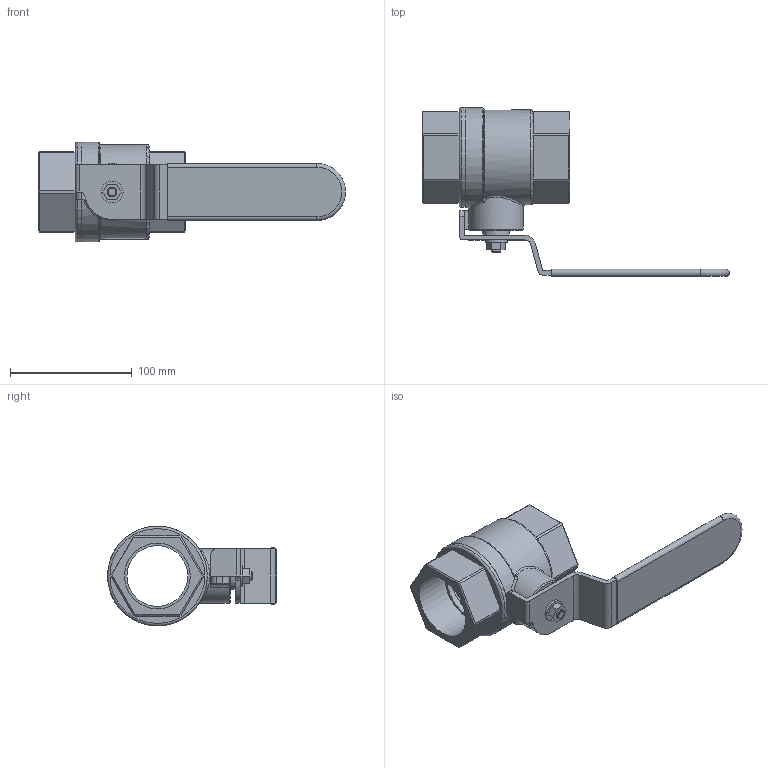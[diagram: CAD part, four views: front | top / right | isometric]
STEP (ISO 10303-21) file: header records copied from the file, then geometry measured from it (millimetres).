
FILE_DESCRIPTION( ( 'Unknown' ), '1' );
FILE_NAME( 'C:/Documents and Settings/Klaus/My Documents/Rootsi BPS 3D, Klaus/BPS 2410 ball valve, 2-pcs/STEP/BPS2410050 ball valve DN50.stp', 'Unknown', ( 'Unknown' ), ( 'Unknown' ), 'PSStep 10.1', 'Unknown', ' ' );
FILE_SCHEMA( ( 'AUTOMOTIVE_DESIGN { 1 0 10303 214 1 1 1 1 }' ) );
Length unit declared in the file: millimetre
Products named in the file (2): 1; 2
Bounding box: 252.5 x 139 x 82 mm (x, y, z)
Volume: 365291 mm3; surface area: 88833.2 mm2
Topology: 2 solids, 2 shells, 295 faces, 720 edges, 466 vertices
Faces by surface type: plane 206, extrusion 50, cylinder 24, bspline 8, torus 6, cone 1
Full cylindrical faces by diameter (mm): 8 x1, 18 x1, 22 x1, 45 x1, 50 x2, 54.046 x2, 78 x1, 82 x2
Entity records: 14769 total; most frequent: CARTESIAN_POINT 6158, ORIENTED_EDGE 1376, DIRECTION 981, EDGE_CURVE 688, VERTEX_POINT 459, EDGE_LOOP 361, VECTOR 359, B_SPLINE_CURVE_WITH_KNOTS 357
